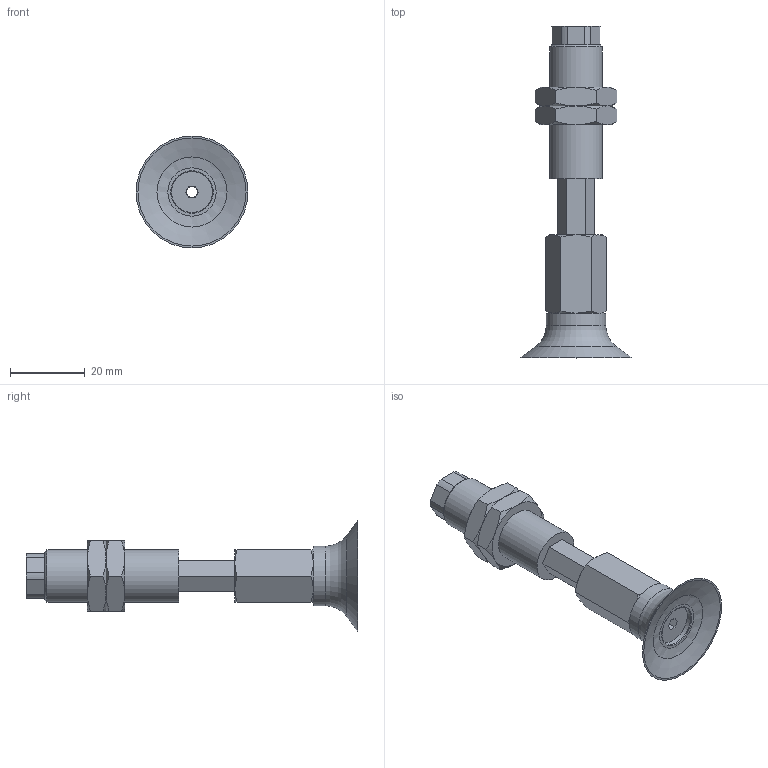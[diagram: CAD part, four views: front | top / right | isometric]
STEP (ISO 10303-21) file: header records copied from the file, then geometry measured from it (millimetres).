
FILE_DESCRIPTION(('STEP AP203'),'1');
FILE_NAME('.stp','2025-08-27T03:21:38',(' '),(' '),'Spatial InterOp 3D',' ',' ');
FILE_SCHEMA(('CONFIG_CONTROL_DESIGN'));
Length unit declared in the file: millimetre
Products named in the file (7): BNABPFTH-30-15-※; ADAPTER; NAPFTH-30-15-MBODY; TN-PF-30-M6-NAPF; Nut-30-15-h; NAPFTH-30-15-FBODY; BPFG-30-※
Assembly tree (7 placements, depth 2):
  BNABPFTH-30-15-※
    ADAPTER
    NAPFTH-30-15-MBODY
    TN-PF-30-M6-NAPF
    Nut-30-15-h  x2
    NAPFTH-30-15-FBODY
    BPFG-30-※
Bounding box: 30 x 89 x 30 mm (x, y, z)
Volume: 14468.2 mm3; surface area: 11281.6 mm2
Topology: 7 solids, 7 shells, 139 faces, 302 edges, 183 vertices
Faces by surface type: plane 68, cone 46, cylinder 19, torus 5, bspline 1
Full cylindrical faces by diameter (mm): 3 x3, 4.134 x1, 4.917 x1, 6 x2, 11 x2, 12.917 x2, 14 x1, 16 x1
Entity records: 3617 total; most frequent: CARTESIAN_POINT 863, DIRECTION 502, ORIENTED_EDGE 448, EDGE_CURVE 224, AXIS2_PLACEMENT_3D 203, EDGE_LOOP 160, VERTEX_POINT 152, FACE_OUTER_BOUND 134
